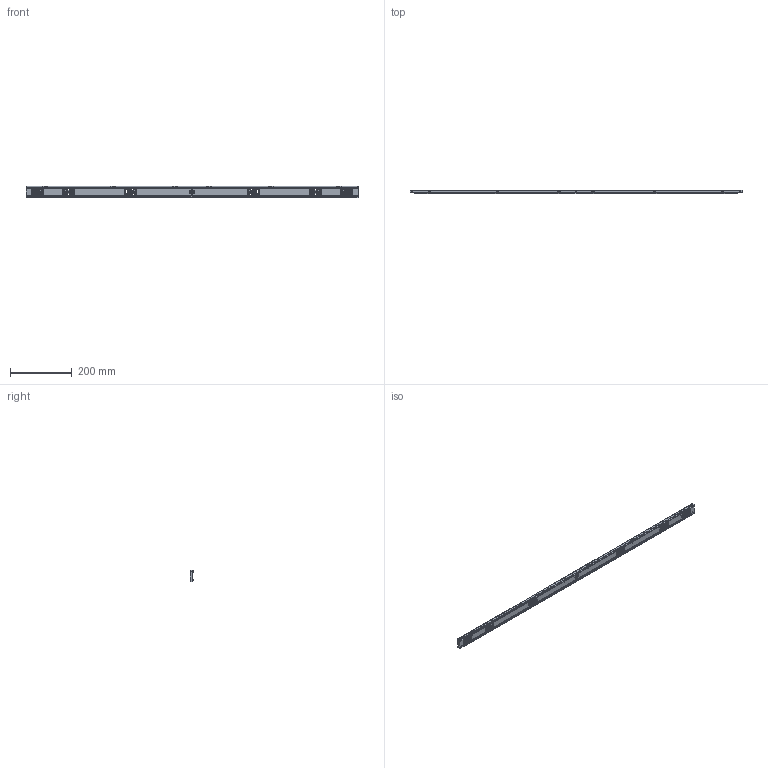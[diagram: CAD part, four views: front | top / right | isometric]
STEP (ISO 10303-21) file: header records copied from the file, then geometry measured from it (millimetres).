
FILE_DESCRIPTION(('Creo Elements/Direct Modeling STEP Export'),'2;1');
FILE_NAME('B3-970.stp','2020-10-30T13:41:06',(''),(''),'Creo Elements/Direct Modeling STEP processor for AP214 (Solid Model)','Creo Elements/Direct Modeling 19.0G 27-Nov-2017 (C) Parametric Technology GmbH','');
FILE_SCHEMA(('AUTOMOTIVE_DESIGN { 1 0 10303 214 1 1 1 1 }'));
Length unit declared in the file: millimetre
Products named in the file (2): PERFIL_SOPORTE_MECANIZADO_REGLA_SV3-970
Assembly tree (1 placements, depth 2):
  PERFIL_SOPORTE_MECANIZADO_REGLA_SV3-970
    PERFIL_SOPORTE_MECANIZADO_REGLA_SV3-970
Bounding box: 1075 x 12.13 x 36.1 mm (x, y, z)
Volume: 253787.8 mm3; surface area: 135705.3 mm2
Topology: 1 solids, 1 shells, 1388 faces, 4088 edges, 2702 vertices
Faces by surface type: plane 782, cylinder 466, cone 92, torus 24, bspline 24
Entity records: 51083 total; most frequent: CARTESIAN_POINT 10990, ORIENTED_EDGE 8152, DIRECTION 6912, EDGE_CURVE 4076, VERTEX_POINT 2702, VECTOR 2356, LINE 2356, AXIS2_PLACEMENT_3D 2278
